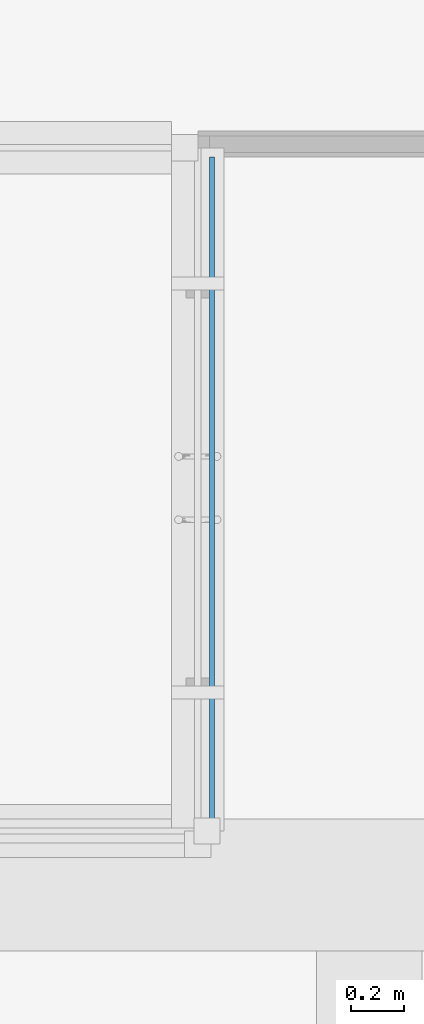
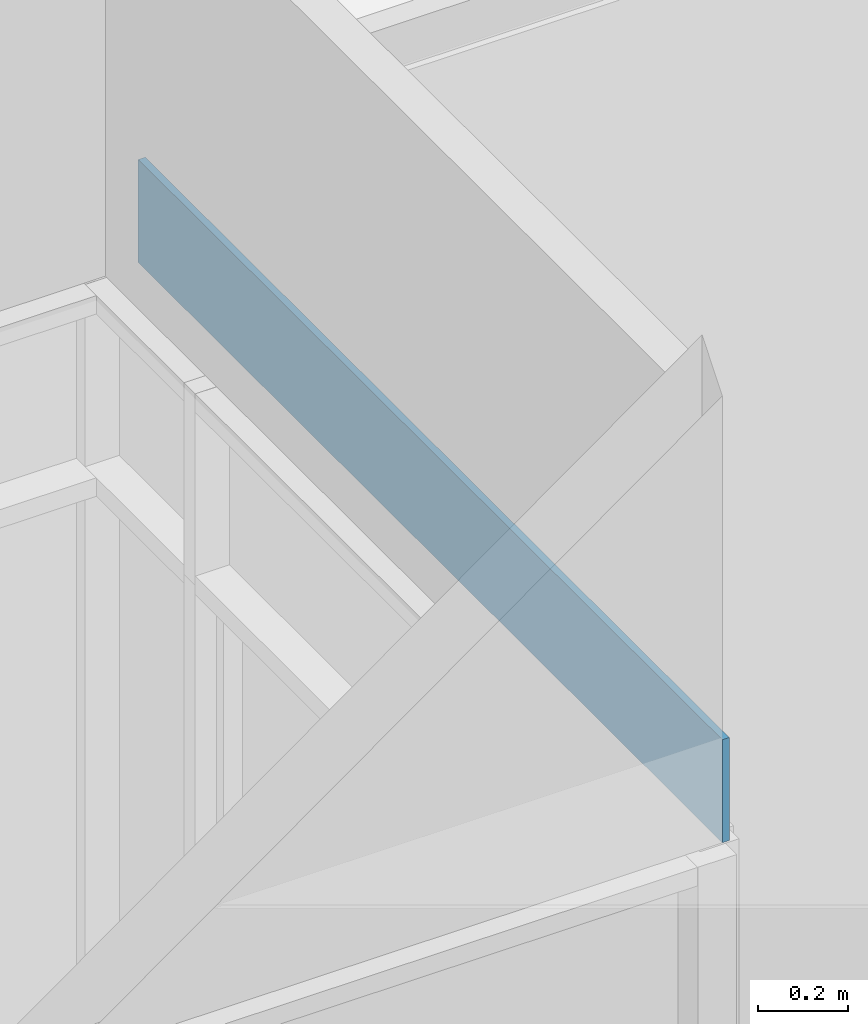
# One storey, part 48 of 81: 1 wall, 2 openings.
"""IFC2X3 building model written with IfcOpenShell, lengths in millimetres."""

import ifcopenshell
import ifcopenshell.guid

model = None  # the IFC model being written
_history = None  # IfcOwnerHistory: only IFC2X3 demands one
_inside = {}  # id of a spatial element -> (the spatial element, [elements in it])
_under = {}  # id of a project, library or spatial element -> (it, [spatial elements below it])
_declared = {}  # id of a project -> (the project, [libraries it declares])
_typed = {}  # id of a type object -> (the type object, [elements of that type])
_made_of = {}  # id of a material, layer set ... -> (it, [elements and type objects made of it])


def new_model(schema):
    """Start an empty IFC model of exactly this schema.

    Asked for "IFC4X3", IfcOpenShell would pick the latest addendum, in which some entities
    have other attributes; the version numbers below select the first issue.
    IFC2X3 requires an IfcOwnerHistory on every rooted entity: one is made here for all.
    """
    global model, _history
    if schema == "IFC4X3":
        model = ifcopenshell.file(schema_version=(4, 3, 0, 0))
    else:
        model = ifcopenshell.file(schema=schema)
    _inside.clear()
    _under.clear()
    _declared.clear()
    _typed.clear()
    _made_of.clear()
    _history = None
    if model.schema == "IFC2X3":
        org = make("IfcOrganization", Name="unknown")
        user = make(
            "IfcPersonAndOrganization",
            ThePerson=make("IfcPerson", FamilyName="unknown"),
            TheOrganization=org,
        )
        app = make(
            "IfcApplication",
            ApplicationDeveloper=org,
            Version="unknown",
            ApplicationFullName="unknown",
            ApplicationIdentifier="unknown",
        )
        _history = make(
            "IfcOwnerHistory",
            OwningUser=user,
            OwningApplication=app,
            ChangeAction="ADDED",
            CreationDate=0,
        )
    return model


def make(cls, **values):
    """One entity of the class cls with the attributes given. An attribute that is None is left unset."""
    return model.create_entity(
        cls, **{name: value for name, value in values.items() if value is not None}
    )


def entity(cls, *values):
    """Any entity or typed value of the class cls, its attributes in the order of the schema. None: left unset."""
    e = model.create_entity(cls)
    for i, value in enumerate(values):
        if value is not None:
            e[i] = value
    return e


def rooted(cls, **values):
    """An entity with a GlobalId (a new one), such as an element, a storey or a relation."""
    return make(cls, GlobalId=ifcopenshell.guid.new(), OwnerHistory=_history, **values)


def si_unit(unit_type, name, prefix=None):
    """IfcSIUnit, for example si_unit("LENGTHUNIT", "METRE", prefix="MILLI")."""
    return make("IfcSIUnit", UnitType=unit_type, Prefix=prefix, Name=name)


def converted_unit(unit_type, name, factor, base, dimensions=None, offset=None):
    """IfcConversionBasedUnit, such as the inch: factor (a typed value) times the base unit."""
    return make(
        "IfcConversionBasedUnit"
        if offset is None
        else "IfcConversionBasedUnitWithOffset",
        ConversionOffset=offset,
        Dimensions=None
        if dimensions is None
        else entity("IfcDimensionalExponents", *dimensions),
        UnitType=unit_type,
        Name=name,
        ConversionFactor=make(
            "IfcMeasureWithUnit", ValueComponent=factor, UnitComponent=base
        ),
    )


def derived_unit(unit_type, elements):
    """IfcDerivedUnit: a product of units, each with its exponent."""
    return make(
        "IfcDerivedUnit",
        Elements=[
            make("IfcDerivedUnitElement", Unit=unit, Exponent=power)
            for unit, power in elements
        ],
        UnitType=unit_type,
    )


def assignment(units):
    """IfcUnitAssignment: the units of a project."""
    return None if units is None else make("IfcUnitAssignment", Units=units)


def point(xyz):
    """IfcCartesianPoint."""
    return None if xyz is None else make("IfcCartesianPoint", Coordinates=xyz)


def direction(xyz):
    """IfcDirection."""
    return None if xyz is None else make("IfcDirection", DirectionRatios=xyz)


def frame(location, z_axis=None, x_axis=None):
    """IfcAxis2Placement3D, a coordinate frame: its origin and axes. An axis left out is left unset."""
    return make(
        "IfcAxis2Placement3D",
        Location=point(location),
        Axis=direction(z_axis),
        RefDirection=direction(x_axis),
    )


def frame_2d(location, x_axis=None):
    """IfcAxis2Placement2D, a coordinate frame in the plane: its origin and x axis."""
    return make(
        "IfcAxis2Placement2D", Location=point(location), RefDirection=direction(x_axis)
    )


def origin():
    """The frame at (0, 0, 0) with its axes left unset."""
    return frame((0.0, 0.0, 0.0))


def place(relative_to, where):
    """IfcLocalPlacement: puts the frame where relative to a parent placement (None: the world)."""
    return make(
        "IfcLocalPlacement", PlacementRelTo=relative_to, RelativePlacement=where
    )


def context(
    kind, dimensions, precision=None, world=None, true_north=None, identifier=None
):
    """IfcGeometricRepresentationContext, for example the 3D "Model" context."""
    return make(
        "IfcGeometricRepresentationContext",
        ContextIdentifier=identifier,
        ContextType=kind,
        CoordinateSpaceDimension=dimensions,
        Precision=precision,
        WorldCoordinateSystem=world,
        TrueNorth=true_north,
    )


def subcontext(parent, identifier, kind, view, scale=None):
    """IfcGeometricRepresentationSubContext, for example "Body" below "Model"."""
    return make(
        "IfcGeometricRepresentationSubContext",
        ContextIdentifier=identifier,
        ContextType=kind,
        ParentContext=parent,
        TargetScale=scale,
        TargetView=view,
    )


def project(units=None, contexts=None):
    """IfcProject with its units and contexts."""
    return rooted(
        "IfcProject",
        Name="project",
        RepresentationContexts=contexts,
        UnitsInContext=assignment(units),
    )


def spatial(cls, under=None, at=None, **own):
    """A site, building, storey or space (cls), placed at a placement, below another one or the project."""
    s = rooted(cls, ObjectPlacement=at, **own)
    if under is not None:
        _under.setdefault(under.id(), (under, []))[1].append(s)
    return s


def polyline(points):
    """IfcPolyline through the points."""
    return make("IfcPolyline", Points=[point(p) for p in points])


def profile(cls, at=None, kind="AREA", **sizes):
    """A parametric profile (cls). Its sizes go by their IFC names, for example OverallWidth=200.0."""
    return make(cls, ProfileType=kind, Position=at, **sizes)


def rectangle(**sizes):
    """IfcRectangleProfileDef."""
    return profile("IfcRectangleProfileDef", **sizes)


def outline(outer, holes=None, kind="AREA"):
    """IfcArbitraryClosedProfileDef: a profile drawn as a closed curve; with holes, ...WithVoids."""
    if holes is None:
        return make("IfcArbitraryClosedProfileDef", ProfileType=kind, OuterCurve=outer)
    return make(
        "IfcArbitraryProfileDefWithVoids",
        ProfileType=kind,
        OuterCurve=outer,
        InnerCurves=holes,
    )


def extrude(swept, where, along, depth):
    """IfcExtrudedAreaSolid: the profile swept, set in the frame where, extruded along a direction by depth."""
    return make(
        "IfcExtrudedAreaSolid",
        SweptArea=swept,
        Position=where,
        ExtrudedDirection=direction(along),
        Depth=depth,
    )


def shape(context_of_items, identifier, shape_type, items):
    """IfcShapeRepresentation: the items that make up one representation, for example the "Body"."""
    return make(
        "IfcShapeRepresentation",
        ContextOfItems=context_of_items,
        RepresentationIdentifier=identifier,
        RepresentationType=shape_type,
        Items=items,
    )


def material(Name=None, Category=None):
    """IfcMaterial."""
    return make("IfcMaterial", Name=Name, Category=Category)


def layer(
    of_material, thickness, ventilated=None, Name=None, Category=None, Priority=None
):
    """IfcMaterialLayer: one layer of a wall or slab, of a material (None: an air gap)."""
    return make(
        "IfcMaterialLayer",
        Material=of_material,
        LayerThickness=thickness,
        IsVentilated=ventilated,
        Name=Name,
        Category=Category,
        Priority=Priority,
    )


def layer_set(layers, Name=None):
    """IfcMaterialLayerSet."""
    return make("IfcMaterialLayerSet", MaterialLayers=layers, LayerSetName=Name)


def layer_usage(for_layer_set, set_direction, sense, offset, extent=None):
    """IfcMaterialLayerSetUsage: how a layer set lies in its element."""
    return make(
        "IfcMaterialLayerSetUsage",
        ForLayerSet=for_layer_set,
        LayerSetDirection=set_direction,
        DirectionSense=sense,
        OffsetFromReferenceLine=offset,
        ReferenceExtent=extent,
    )


def made_of(thing, what):
    """Note that an element or type object is made of a material, layer set ...; save() writes the relation."""
    if what is not None:
        _made_of.setdefault(what.id(), (what, []))[1].append(thing)
    return thing


def type_object(cls, material=None, **own):
    """A type object (cls), such as IfcWallType, which elements share."""
    return made_of(rooted(cls, **own), material)


def element(
    cls,
    number,
    at=None,
    inside=None,
    cuts=None,
    type_object=None,
    material=None,
    context=None,
    identifier="Body",
    shape_type=None,
    held_by="IfcProductDefinitionShape",
    body=None,
    shapes=None,
    **own,
):
    """One element of the class cls, such as IfcWall. Its Tag is "e" and its number.

    at: its placement. inside: the storey or other place that contains it. cuts: it is an
    opening in that element (IfcRelVoidsElement). A single representation is given by context,
    identifier, shape_type and body (its items); several are given by shapes. held_by: the class
    of the entity that holds the representations. save() writes the other relations.
    """
    e = rooted(cls, Tag="e%d" % number, ObjectPlacement=at, **own)
    if body is not None:
        shapes = [shape(context, identifier, shape_type, body)]
    if shapes is not None:
        e.Representation = make(held_by, Representations=shapes)
    if inside is not None:
        _inside.setdefault(inside.id(), (inside, []))[1].append(e)
    if cuts is not None:
        rooted(
            "IfcRelVoidsElement", RelatingBuildingElement=cuts, RelatedOpeningElement=e
        )
    if type_object is not None:
        _typed.setdefault(type_object.id(), (type_object, []))[1].append(e)
    return made_of(e, material)


def aggregate(whole, parts):
    """IfcRelAggregates: a whole, such as a stair, and the parts it consists of."""
    return rooted("IfcRelAggregates", RelatingObject=whole, RelatedObjects=parts)


def save(model, path):
    """Write the relations noted so far, then the file.

    IfcRelAggregates (storeys below a building ...), IfcRelContainedInSpatialStructure (elements
    in a storey), IfcRelDefinesByType, IfcRelAssociatesMaterial and IfcRelDeclares: one each for
    every whole, place, type object, material and project.
    """
    for whole, parts in _under.values():
        aggregate(whole, parts)
    for where, things in _inside.values():
        rooted(
            "IfcRelContainedInSpatialStructure",
            RelatedElements=things,
            RelatingStructure=where,
        )
    for kind, things in _typed.values():
        rooted("IfcRelDefinesByType", RelatedObjects=things, RelatingType=kind)
    for what, things in _made_of.values():
        rooted("IfcRelAssociatesMaterial", RelatedObjects=things, RelatingMaterial=what)
    for by, libraries in _declared.values():
        rooted("IfcRelDeclares", RelatingContext=by, RelatedDefinitions=libraries)
    model.write(path)


model = new_model("IFC2X3")

# Units and contexts
model_context = context("Model", 3, precision=0.01, world=origin(), true_north=direction((6.123031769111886e-17, 1.0)))
body_context = subcontext(model_context, "Body", "Model", "MODEL_VIEW")
ifc_project = project(units=[si_unit("LENGTHUNIT", "METRE", prefix="MILLI"), si_unit("AREAUNIT", "SQUARE_METRE"), si_unit("VOLUMEUNIT", "CUBIC_METRE"), converted_unit("PLANEANGLEUNIT", "DEGREE", entity("IfcRatioMeasure", 0.017453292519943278), si_unit("PLANEANGLEUNIT", "RADIAN"), dimensions=[0, 0, 0, 0, 0, 0, 0]), si_unit("MASSUNIT", "GRAM", prefix="KILO"), derived_unit("MASSDENSITYUNIT", [(si_unit("MASSUNIT", "GRAM", prefix="KILO"), 1), (si_unit("LENGTHUNIT", "METRE"), -3)]), derived_unit("MOMENTOFINERTIAUNIT", [(si_unit("LENGTHUNIT", "METRE"), 4)]), si_unit("TIMEUNIT", "SECOND"), si_unit("FREQUENCYUNIT", "HERTZ"), si_unit("THERMODYNAMICTEMPERATUREUNIT", "DEGREE_CELSIUS"), derived_unit("THERMALTRANSMITTANCEUNIT", [(si_unit("MASSUNIT", "GRAM", prefix="KILO"), 1), (si_unit("THERMODYNAMICTEMPERATUREUNIT", "KELVIN"), -1), (si_unit("TIMEUNIT", "SECOND"), -3)]), derived_unit("VOLUMETRICFLOWRATEUNIT", [(si_unit("LENGTHUNIT", "METRE"), 3), (si_unit("TIMEUNIT", "SECOND"), -1)]), derived_unit("MASSFLOWRATEUNIT", [(si_unit("MASSUNIT", "GRAM", prefix="KILO"), 1), (si_unit("TIMEUNIT", "SECOND"), -1)]), derived_unit("ROTATIONALFREQUENCYUNIT", [(si_unit("TIMEUNIT", "SECOND"), -1)]), si_unit("ELECTRICCURRENTUNIT", "AMPERE"), si_unit("ELECTRICVOLTAGEUNIT", "VOLT"), si_unit("POWERUNIT", "WATT"), si_unit("FORCEUNIT", "NEWTON", prefix="KILO"), si_unit("ILLUMINANCEUNIT", "LUX"), si_unit("LUMINOUSFLUXUNIT", "LUMEN"), si_unit("LUMINOUSINTENSITYUNIT", "CANDELA"), derived_unit("USERDEFINED", [(si_unit("MASSUNIT", "GRAM", prefix="KILO"), -1), (si_unit("LENGTHUNIT", "METRE"), -2), (si_unit("TIMEUNIT", "SECOND"), 3), (si_unit("LUMINOUSFLUXUNIT", "LUMEN"), 1)]), derived_unit("SOUNDPOWERUNIT", [(si_unit("MASSUNIT", "GRAM", prefix="KILO"), 1), (si_unit("LENGTHUNIT", "METRE"), 2), (si_unit("TIMEUNIT", "SECOND"), -3)]), derived_unit("SOUNDPRESSUREUNIT", [(si_unit("MASSUNIT", "GRAM", prefix="KILO"), 1), (si_unit("LENGTHUNIT", "METRE"), -1), (si_unit("TIMEUNIT", "SECOND"), -2)]), derived_unit("LINEARVELOCITYUNIT", [(si_unit("LENGTHUNIT", "METRE"), 1), (si_unit("TIMEUNIT", "SECOND"), -1)]), si_unit("PRESSUREUNIT", "PASCAL"), derived_unit("USERDEFINED", [(si_unit("LENGTHUNIT", "METRE"), -2), (si_unit("MASSUNIT", "GRAM", prefix="KILO"), 1), (si_unit("TIMEUNIT", "SECOND"), -2)]), derived_unit("LINEARFORCEUNIT", [(si_unit("MASSUNIT", "GRAM", prefix="KILO"), 1), (si_unit("LENGTHUNIT", "METRE"), 1), (si_unit("TIMEUNIT", "SECOND"), -2), (si_unit("LENGTHUNIT", "METRE"), -1)]), derived_unit("PLANARFORCEUNIT", [(si_unit("MASSUNIT", "GRAM", prefix="KILO"), 1), (si_unit("LENGTHUNIT", "METRE"), 1), (si_unit("TIMEUNIT", "SECOND"), -2), (si_unit("LENGTHUNIT", "METRE"), -2)])], contexts=[model_context])

# Site, building, storey
site_placement = place(None, frame((-14167.972527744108, -657.2125860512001, 0.0)))
site = spatial("IfcSite", under=ifc_project, at=site_placement, Name="Default", CompositionType="ELEMENT")
building_placement = place(site_placement, origin())
building = spatial("IfcBuilding", under=site, at=building_placement, Name="Sample Building", CompositionType="ELEMENT")
storey_placement = place(building_placement, frame((0.0, 0.0, 13400.0)))
storey = spatial("IfcBuildingStorey", under=building, at=storey_placement, Name="지상 4층", CompositionType="ELEMENT", Elevation=13400.00000000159)

# Wall, openings
ifc_material_1 = material(Name="WA611-수성페인트 (내부) 벽 (3회)")
ifc_layer_1 = layer(ifc_material_1, 1.0)
ifc_material_2 = material(Name="WA551-시멘트모르타르 (내부) 벽 18mm")
ifc_layer_2 = layer(ifc_material_2, 16.0)
ifc_material_3 = material(Name="WA555-콘크리트면정리 벽 (내부)")
ifc_layer_3 = layer(ifc_material_3, 1.0)
ifc_layer_set = layer_set([ifc_layer_1, ifc_layer_2, ifc_layer_3], Name="기본 벽:A1-32-06A-콘크리트면정리, 시멘트모르타르(미장용), 수성페인트(내부) (18mm)")
ifc_layer_usage = layer_usage(ifc_layer_set, "AXIS2", "POSITIVE", -9.000000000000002)
wall_type = type_object("IfcWallType", Name="기본 벽:A1-32-06A-콘크리트면정리, 시멘트모르타르(미장용), 수성페인트(내부) (18mm)", PredefinedType="STANDARD", material=ifc_layer_set)
wall_placement = place(storey_placement, frame((43771.97250957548, 12967.21238308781, 2700.0), z_axis=(0.0, 0.0, 1.0), x_axis=(0.0, 1.0, 0.0)))
wall = element("IfcWallStandardCase", 1, at=wall_placement, inside=storey, type_object=wall_type, material=ifc_layer_usage, Name="기본 벽:A1-32-06A-콘크리트면정리, 시멘트모르타르(미장용), 수성페인트(내부) (18mm)", ObjectType="기본 벽:A1-32-06A-콘크리트면정리, 시멘트모르타르(미장용), 수성페인트(내부) (18mm)", context=body_context, shape_type="SweptSolid", body=[
    extrude(rectangle(XDim=2599.4648322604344, YDim=17.999999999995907, at=frame_2d((1299.7324161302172, 0.0), x_axis=(1.0, 0.0))), origin(), (0.0, 0.0, 1.0), 280.00000000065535),
])
opening_1_placement = place(wall_placement, origin())
element("IfcOpeningElement", 2, at=opening_1_placement, cuts=wall, Name="기본 벽:A1-32-06A-콘크리트면정리, 시멘트모르타르(미장용), 수성페인트(내부) (18mm)", ObjectType="Opening", context=body_context, shape_type="SweptSolid", body=[
    extrude(outline(polyline([(-1446.2500000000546, -1317.526181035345), (1173.7499999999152, -1317.526181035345), (1173.7499999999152, -777.4912729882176), (-901.2499999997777, -777.4912729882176), (-901.2499999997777, 722.5087270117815), (1173.7499999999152, 722.5087270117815), (1173.7499999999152, 1372.508727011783), (-1446.2500000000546, 1372.508727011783), (-1446.2500000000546, -1317.526181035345)])), frame((1317.4740219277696, -161.39999999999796, -1446.2500000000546), z_axis=(0.0, 1.0, 0.0), x_axis=(0.0, 0.0, -1.0)), (0.0, 0.0, 1.0), 322.7999999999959),
])
opening_2_placement = place(wall_placement, origin())
element("IfcOpeningElement", 3, at=opening_2_placement, cuts=wall, Name="기본 벽:A1-32-06A-콘크리트면정리, 시멘트모르타르(미장용), 수성페인트(내부) (18mm)", ObjectType="Opening", context=body_context, shape_type="SweptSolid", body=[
    extrude(rectangle(XDim=2099.9999999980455, YDim=1499.999999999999, at=frame_2d((1.0800249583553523e-12, 0.0), x_axis=(0.0, 1.0))), frame((1344.9652949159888, -1514.999981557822, -1595.0), z_axis=(0.0, 1.0, 0.0), x_axis=(-1.0, 0.0, 0.0)), (0.0, 0.0, 1.0), 3048.0),
])

save(model, "model.ifc")
